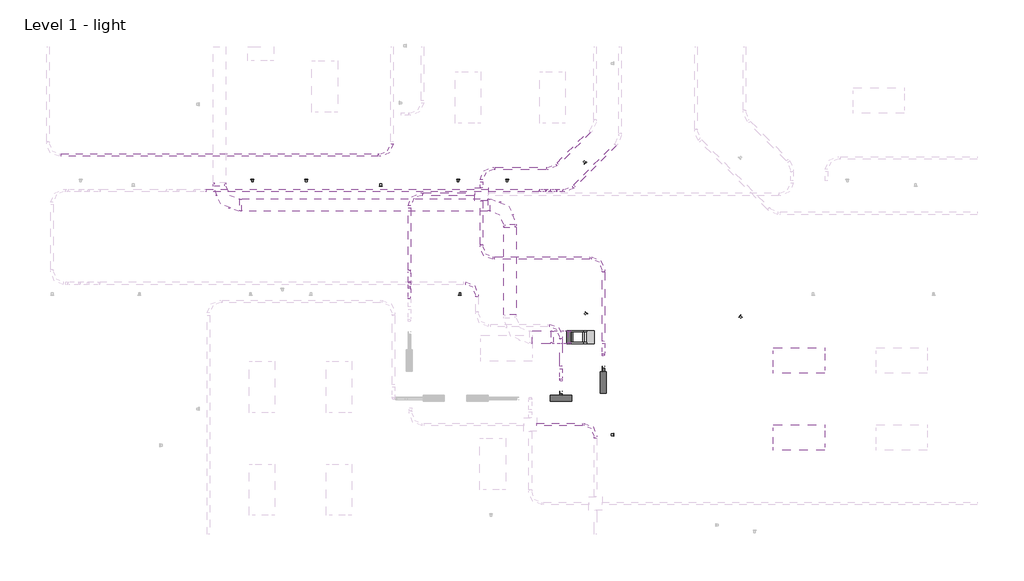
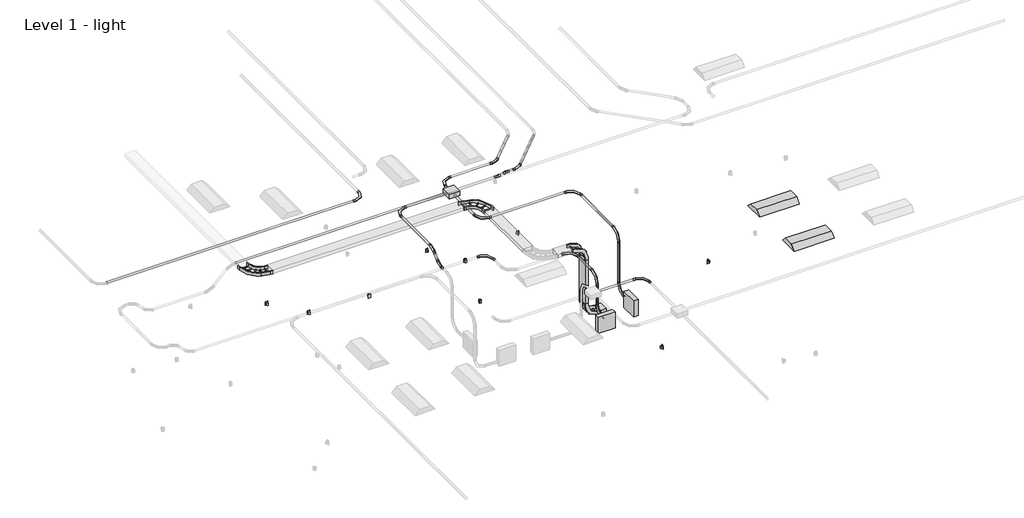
# One storey, part 3 of 5: 25 cable carrier segments, 23 cable carrier fittings, 9 proxies, 3 switching devices, 2 light fixtures.
"""IFC4 building model written with IfcOpenShell, lengths in millimetres."""

from ifc_helpers import new_model, si_unit, point, frame, frame_2d, origin, place, context, project, spatial, polyline, circle_curve, trimmed, segment, composite_curve, outline, extrude, transform, mapped, element, save
from components import m_duplex_receptacle_standard_10251bba, m_lighting_and_appliance_panelboard_208v_mlo_100_a_deb79597, m_conduit_elbow_without_fittings_rnc_standard_30e86c5b, m_conduit_elbow_without_fittings_rnc_standard_89ecd00f, m_conduit_elbow_without_fittings_rnc_standard_8ab30edc, m_conduit_junction_box_cross_pvc_standard_3c8550d1, m_ladder_horizontal_bend_standard_b7bc1a9d, m_ladder_vertical_inside_bend_standard_9c9c70af, m_ladder_vertical_outside_bend_standard_a116f5cc, m_plain_recessed_lighting_fixture_c7d3eefa

model = new_model("IFC4")

# Units and contexts
model_context = context("Model", 3, world=origin())
ifc_project = project(units=[si_unit("LENGTHUNIT", "METRE", prefix="MILLI")], contexts=[model_context])

# Site, building, storey
site = spatial("IfcSite", under=ifc_project)
building = spatial("IfcBuilding", under=site)
storey = spatial("IfcBuildingStorey", under=building, Name="Level 1 - light", Elevation=0.0)

# Proxies
placement = place(None, origin())
m_duplex_receptacle_standard_shape = m_duplex_receptacle_standard_10251bba(model_context)
element("IfcBuildingElementProxy", 1, Name="M_Duplex Receptacle : Standard", ObjectType="M_Duplex Receptacle : Standard", at=placement, inside=storey, context=model_context, shape_type="MappedRepresentation", body=[
    mapped(m_duplex_receptacle_standard_shape, transform((-13539.879286, 6803.8737109, 460.0), x_axis=(-1.0, 0.0, 0.0), y_axis=(0.0, 0.0, 1.0), z_axis=(0.0, 1.0, 0.0))),
])
element("IfcBuildingElementProxy", 2, Name="M_Duplex Receptacle : Standard", ObjectType="M_Duplex Receptacle : Standard", at=placement, inside=storey, context=model_context, shape_type="MappedRepresentation", body=[
    mapped(m_duplex_receptacle_standard_shape, transform((-8765.3956072, 6803.8737109, 460.0), x_axis=(-1.0, 0.0, 0.0), y_axis=(0.0, 0.0, 1.0), z_axis=(0.0, 1.0, 0.0))),
])
element("IfcBuildingElementProxy", 3, Name="M_Duplex Receptacle : Standard", ObjectType="M_Duplex Receptacle : Standard", at=placement, inside=storey, context=model_context, shape_type="MappedRepresentation", body=[
    mapped(m_duplex_receptacle_standard_shape, transform((-3232.9715079, 3556.064958, 460.0), x_axis=(-0.7071067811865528, -0.7071067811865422, 0.0), y_axis=(0.0, 0.0, 1.0), z_axis=(-0.7071067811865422, 0.7071067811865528, 0.0))),
])
element("IfcBuildingElementProxy", 4, Name="M_Duplex Receptacle : Standard", ObjectType="M_Duplex Receptacle : Standard", at=placement, inside=storey, context=model_context, shape_type="MappedRepresentation", body=[
    mapped(m_duplex_receptacle_standard_shape, transform((-6882.1900747, 3636.1510306, 460.0), x_axis=(-0.7071067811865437, 0.7071067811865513, 0.0), y_axis=(0.0, 0.0, 1.0), z_axis=(0.7071067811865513, 0.7071067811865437, 0.0))),
])
element("IfcBuildingElementProxy", 5, Name="M_Duplex Receptacle : Standard", ObjectType="M_Duplex Receptacle : Standard", at=placement, inside=storey, context=model_context, shape_type="MappedRepresentation", body=[
    mapped(m_duplex_receptacle_standard_shape, transform((-6906.3808842, 7197.8555817, 460.0), x_axis=(0.7071067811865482, 0.7071067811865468, 0.0), y_axis=(0.0, 0.0, 1.0), z_axis=(0.7071067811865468, -0.7071067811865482, 0.0))),
])
element("IfcBuildingElementProxy", 6, Name="M_Duplex Receptacle : Standard", ObjectType="M_Duplex Receptacle : Standard", at=placement, inside=storey, context=model_context, shape_type="MappedRepresentation", body=[
    mapped(m_duplex_receptacle_standard_shape, transform((-11769.180618, 6648.2987109, 460.0), x_axis=(1.0, 0.0, 0.0), y_axis=(0.0, 0.0, 1.0), z_axis=(0.0, -1.0, 0.0))),
])
element("IfcBuildingElementProxy", 7, Name="M_Duplex Receptacle : Standard", ObjectType="M_Duplex Receptacle : Standard", at=placement, inside=storey, context=model_context, shape_type="MappedRepresentation", body=[
    mapped(m_duplex_receptacle_standard_shape, transform((-6236.737755, 737.1869198, 460.0), x_axis=(0.0, 1.0, 0.0), y_axis=(0.0, 0.0, 1.0), z_axis=(1.0, 0.0, 0.0))),
])
m_lighting_and_appliance_panelboard_208v_mlo_100_a_shape = m_lighting_and_appliance_panelboard_208v_mlo_100_a_deb79597(model_context)
element("IfcBuildingElementProxy", 8, Name="M_Lighting and Appliance Panelboard - 208V MLO : 100 A", ObjectType="M_Lighting and Appliance Panelboard - 208V MLO : 100 A", at=placement, inside=storey, context=model_context, shape_type="MappedRepresentation", body=[
    mapped(m_lighting_and_appliance_panelboard_208v_mlo_100_a_shape, transform((-6406.1969837, 1981.2, 780.9), x_axis=(0.0, -1.0, 0.0), y_axis=(0.0, 0.0, -1.0), z_axis=(1.0, 0.0, 0.0))),
])
element("IfcBuildingElementProxy", 9, Name="M_Lighting and Appliance Panelboard - 208V MLO : 100 A", ObjectType="M_Lighting and Appliance Panelboard - 208V MLO : 100 A", at=placement, inside=storey, context=model_context, shape_type="MappedRepresentation", body=[
    mapped(m_lighting_and_appliance_panelboard_208v_mlo_100_a_shape, transform((-7481.7972895, 1530.1987109, 780.9), x_axis=(-1.0, 0.0, 0.0), y_axis=(0.0, 0.0, -1.0), z_axis=(0.0, -1.0, 0.0))),
])

# Cable carrier fittings
m_conduit_elbow_without_fittings_rnc_standard_shape = m_conduit_elbow_without_fittings_rnc_standard_30e86c5b(model_context)
element("IfcCableCarrierFitting", 10, ObjectType="M_Conduit Elbow - without Fittings - RNC : Standard", at=placement, inside=storey, context=model_context, shape_type="MappedRepresentation", body=[
    mapped(m_conduit_elbow_without_fittings_rnc_standard_shape, transform((-7672.3867332, 7067.753298, 3100.0), x_axis=(1.0, 0.0, 0.0), y_axis=(0.0, 1.0, 0.0), z_axis=(0.0, 0.0, 1.0))),
])
element("IfcCableCarrierFitting", 11, ObjectType="M_Conduit Elbow - without Fittings - RNC : Standard", at=placement, inside=storey, context=model_context, shape_type="MappedRepresentation", body=[
    mapped(m_conduit_elbow_without_fittings_rnc_standard_shape, transform((-11091.3, 4128.4116522, 2750.0), x_axis=(0.0, 1.0, 0.0), y_axis=(0.0, 0.0, 1.0), z_axis=(1.0, 0.0, 0.0))),
])
element("IfcCableCarrierFitting", 12, ObjectType="M_Conduit Elbow - without Fittings - RNC : Standard", at=placement, inside=storey, context=model_context, shape_type="MappedRepresentation", body=[
    mapped(m_conduit_elbow_without_fittings_rnc_standard_shape, transform((-11091.3, 4478.4116522, 3100.0), x_axis=(0.0, 0.7071067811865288, 0.7071067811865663), y_axis=(0.0, 0.7071067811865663, -0.7071067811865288), z_axis=(-1.0, 0.0, 0.0))),
])
element("IfcCableCarrierFitting", 13, ObjectType="M_Conduit Elbow - without Fittings - RNC : Standard", at=placement, inside=storey, context=model_context, shape_type="MappedRepresentation", body=[
    mapped(m_conduit_elbow_without_fittings_rnc_standard_shape, transform((-7281.8, 6538.0528944, 3100.0), x_axis=(1.0, 0.0, 0.0), y_axis=(0.0, 1.0, 0.0), z_axis=(0.0, 0.0, 1.0))),
])
m_conduit_elbow_without_fittings_rnc_standard_2_shape = m_conduit_elbow_without_fittings_rnc_standard_89ecd00f(model_context)
element("IfcCableCarrierFitting", 14, ObjectType="M_Conduit Elbow - without Fittings - RNC : Standard", at=placement, inside=storey, context=model_context, shape_type="MappedRepresentation", body=[
    mapped(m_conduit_elbow_without_fittings_rnc_standard_2_shape, transform((-6479.2, 2635.2, 1200.0), x_axis=(0.0, 1.0, 0.0), y_axis=(0.0, 0.0, 1.0), z_axis=(1.0, 0.0, 0.0))),
])
element("IfcCableCarrierFitting", 15, ObjectType="M_Conduit Elbow - without Fittings - RNC : Standard", at=placement, inside=storey, context=model_context, shape_type="MappedRepresentation", body=[
    mapped(m_conduit_elbow_without_fittings_rnc_standard_2_shape, transform((-6479.2, 2635.2, 3100.0), x_axis=(0.0, 0.0, 1.0), y_axis=(0.0, 1.0, 0.0), z_axis=(-1.0, 0.0, 0.0))),
])
element("IfcCableCarrierFitting", 16, ObjectType="M_Conduit Elbow - without Fittings - RNC : Standard", at=placement, inside=storey, context=model_context, shape_type="MappedRepresentation", body=[
    mapped(m_conduit_elbow_without_fittings_rnc_standard_2_shape, transform((-6479.2, 4935.2, 3100.0), x_axis=(0.0, 1.0, 0.0), y_axis=(-1.0, 0.0, 0.0), z_axis=(0.0, 0.0, 1.0))),
])
element("IfcCableCarrierFitting", 17, ObjectType="M_Conduit Elbow - without Fittings - RNC : Standard", at=placement, inside=storey, context=model_context, shape_type="MappedRepresentation", body=[
    mapped(m_conduit_elbow_without_fittings_rnc_standard_2_shape, transform((-9379.2, 7067.753298, 3100.0), x_axis=(-1.0, 0.0, 0.0), y_axis=(0.0, -1.0, 0.0), z_axis=(0.0, 0.0, 1.0))),
])
element("IfcCableCarrierFitting", 18, ObjectType="M_Conduit Elbow - without Fittings - RNC : Standard", at=placement, inside=storey, context=model_context, shape_type="MappedRepresentation", body=[
    mapped(m_conduit_elbow_without_fittings_rnc_standard_2_shape, transform((-9379.2, 4935.2, 3100.0), x_axis=(0.0, -1.0, 0.0), y_axis=(1.0, 0.0, 0.0), z_axis=(0.0, 0.0, 1.0))),
])
element("IfcCableCarrierFitting", 19, ObjectType="M_Conduit Elbow - without Fittings - RNC : Standard", at=placement, inside=storey, context=model_context, shape_type="MappedRepresentation", body=[
    mapped(m_conduit_elbow_without_fittings_rnc_standard_2_shape, transform((-11091.3, 6453.4116522, 3100.0), x_axis=(-1.0, 0.0, 0.0), y_axis=(0.0, -1.0, 0.0), z_axis=(0.0, 0.0, 1.0))),
])
element("IfcCableCarrierFitting", 20, ObjectType="M_Conduit Elbow - without Fittings - RNC : Standard", at=placement, inside=storey, context=model_context, shape_type="MappedRepresentation", body=[
    mapped(m_conduit_elbow_without_fittings_rnc_standard_2_shape, transform((-6663.4807444, 980.94, 2750.0), x_axis=(0.0, 1.0, 0.0), y_axis=(-1.0, 0.0, 0.0), z_axis=(0.0, 0.0, 1.0))),
])
element("IfcCableCarrierFitting", 21, ObjectType="M_Conduit Elbow - without Fittings - RNC : Standard", at=placement, inside=storey, context=model_context, shape_type="MappedRepresentation", body=[
    mapped(m_conduit_elbow_without_fittings_rnc_standard_2_shape, transform((-11502.4372396, 7383.2800092, 3100.0), x_axis=(1.0, 0.0, 0.0), y_axis=(0.0, 1.0, 0.0), z_axis=(0.0, 0.0, 1.0))),
])
element("IfcCableCarrierFitting", 22, ObjectType="M_Conduit Elbow - without Fittings - RNC : Standard", at=placement, inside=storey, context=model_context, shape_type="MappedRepresentation", body=[
    mapped(m_conduit_elbow_without_fittings_rnc_standard_2_shape, transform((-7481.8, 2038.0528944, 1200.0), x_axis=(0.0, 1.0, 0.0), y_axis=(0.0, 0.0, 1.0), z_axis=(1.0, 0.0, 0.0))),
])
element("IfcCableCarrierFitting", 23, ObjectType="M_Conduit Elbow - without Fittings - RNC : Standard", at=placement, inside=storey, context=model_context, shape_type="MappedRepresentation", body=[
    mapped(m_conduit_elbow_without_fittings_rnc_standard_2_shape, transform((-7481.8, 2038.0528944, 2427.7), x_axis=(0.0, 0.0, 1.0), y_axis=(0.0, 1.0, 0.0), z_axis=(-1.0, 0.0, 0.0))),
])
element("IfcCableCarrierFitting", 24, ObjectType="M_Conduit Elbow - without Fittings - RNC : Standard", at=placement, inside=storey, context=model_context, shape_type="MappedRepresentation", body=[
    mapped(m_conduit_elbow_without_fittings_rnc_standard_2_shape, transform((-7481.8, 3338.0528944, 2427.7), x_axis=(0.0, 1.0, 0.0), y_axis=(-1.0, 0.0, 0.0), z_axis=(0.0, 0.0, 1.0))),
])
element("IfcCableCarrierFitting", 25, ObjectType="M_Conduit Elbow - without Fittings - RNC : Standard", at=placement, inside=storey, context=model_context, shape_type="MappedRepresentation", body=[
    mapped(m_conduit_elbow_without_fittings_rnc_standard_2_shape, transform((-9481.8, 4338.0528944, 2427.7), x_axis=(0.0, 1.0, 0.0), y_axis=(-1.0, 0.0, 0.0), z_axis=(0.0, 0.0, 1.0))),
])
m_conduit_elbow_without_fittings_rnc_standard_3_shape = m_conduit_elbow_without_fittings_rnc_standard_8ab30edc(model_context)
element("IfcCableCarrierFitting", 26, ObjectType="M_Conduit Elbow - without Fittings - RNC : Standard", at=placement, inside=storey, context=model_context, shape_type="MappedRepresentation", body=[
    mapped(m_conduit_elbow_without_fittings_rnc_standard_3_shape, transform((-7661.2098584, 6538.0528944, 3100.0), x_axis=(-1.0, 0.0, 0.0), y_axis=(0.0, 0.0, -1.0), z_axis=(0.0, -1.0, 0.0))),
])
element("IfcCableCarrierFitting", 27, ObjectType="M_Conduit Elbow - without Fittings - RNC : Standard", at=placement, inside=storey, context=model_context, shape_type="MappedRepresentation", body=[
    mapped(m_conduit_elbow_without_fittings_rnc_standard_3_shape, transform((-7922.6304784, 6538.0528944, 3048.0), x_axis=(-0.9807851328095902, 0.0, -0.19509106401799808), y_axis=(-0.19509106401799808, 0.0, 0.9807851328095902), z_axis=(0.0, 1.0, 0.0))),
])
m_conduit_junction_box_cross_pvc_standard_shape = m_conduit_junction_box_cross_pvc_standard_3c8550d1(model_context)
element("IfcCableCarrierFitting", 28, ObjectType="M_Conduit Junction Box - Cross - PVC : Standard", at=placement, inside=storey, context=model_context, shape_type="MappedRepresentation", body=[
    mapped(m_conduit_junction_box_cross_pvc_standard_shape, transform((-9379.2, 6453.4116522, 3100.0), x_axis=(1.0, 0.0, 0.0), y_axis=(0.0, 1.0, 0.0), z_axis=(0.0, 0.0, 1.0))),
])
m_ladder_horizontal_bend_standard_shape = m_ladder_horizontal_bend_standard_b7bc1a9d(model_context)
element("IfcCableCarrierFitting", 29, ObjectType="M_Ladder Horizontal Bend : Standard", at=placement, inside=storey, context=model_context, shape_type="MappedRepresentation", body=[
    mapped(m_ladder_horizontal_bend_standard_shape, transform((-8700.0321645, 6195.778284, 2750.0), x_axis=(0.0, 1.0, 0.0), y_axis=(-1.0, 0.0, 0.0), z_axis=(0.0, 0.0, 1.0))),
])
element("IfcCableCarrierFitting", 30, ObjectType="M_Ladder Horizontal Bend : Standard", at=placement, inside=storey, context=model_context, shape_type="MappedRepresentation", body=[
    mapped(m_ladder_horizontal_bend_standard_shape, transform((-15600.0321645, 6195.778284, 2750.0), x_axis=(0.0, -1.0, 0.0), y_axis=(1.0, 0.0, 0.0), z_axis=(0.0, 0.0, 1.0))),
])
m_ladder_vertical_inside_bend_standard_shape = m_ladder_vertical_inside_bend_standard_9c9c70af(model_context)
element("IfcCableCarrierFitting", 31, ObjectType="M_Ladder Vertical Inside Bend : Standard", at=placement, inside=storey, context=model_context, shape_type="MappedRepresentation", body=[
    mapped(m_ladder_vertical_inside_bend_standard_shape, transform((-7300.0321645, 3055.778284, 500.0), x_axis=(-1.0, 0.0, 0.0), y_axis=(0.0, 0.0, 1.0), z_axis=(0.0, 1.0, 0.0))),
])
m_ladder_vertical_outside_bend_standard_shape = m_ladder_vertical_outside_bend_standard_a116f5cc(model_context)
element("IfcCableCarrierFitting", 32, ObjectType="M_Ladder Vertical Outside Bend : Standard", at=placement, inside=storey, context=model_context, shape_type="MappedRepresentation", body=[
    mapped(m_ladder_vertical_outside_bend_standard_shape, transform((-7300.0321645, 3055.778284, 2750.0), x_axis=(0.0, 0.0, 1.0), y_axis=(-1.0, 0.0, 0.0), z_axis=(0.0, -1.0, 0.0))),
])

# Cable carrier segments
element("IfcCableCarrierSegment", 33, ObjectType="Rigid Nonmetallic Conduit (RNC Sch 40)", at=placement, inside=storey, context=model_context, shape_type="SweptSolid", body=[
    extrude(outline(composite_curve([segment(trimmed(circle_curve(frame_2d((7067.753298, 3100.0)), 30.165), [point((7037.588298, 3100.0))], [point((7067.753298, 3130.165))], False, "CARTESIAN"), True, "CONTINUOUS"), segment(trimmed(circle_curve(frame_2d((7067.753298, 3100.0)), 30.165), [point((7067.753298, 3130.165))], [point((7097.918298, 3100.0))], False, "CARTESIAN"), True, "CONTINUOUS"), segment(trimmed(circle_curve(frame_2d((7067.753298, 3100.0)), 30.165), [point((7097.918298, 3100.0))], [point((7067.753298, 3069.835))], False, "CARTESIAN"), True, "CONTINUOUS"), segment(trimmed(circle_curve(frame_2d((7067.753298, 3100.0)), 30.165), [point((7067.753298, 3069.835))], [point((7037.588298, 3100.0))], False, "CARTESIAN"), True, "CONTINUOUS")], self_intersect=False)), frame((-9056.94, 0.0, 0.0), z_axis=(1.0, 0.0, 0.0), x_axis=(0.0, 1.0, 0.0)), (0.0, 0.0, 1.0), 1221.3108531),
])
element("IfcCableCarrierSegment", 34, ObjectType="Rigid Nonmetallic Conduit (RNC Sch 40)", at=placement, inside=storey, context=model_context, shape_type="SweptSolid", body=[
    extrude(outline(composite_curve([segment(trimmed(circle_curve(frame_2d((0.0, 30.165)), 30.165), [point((30.1650001, 30.165))], [point((0.0, 0.0))], False, "CARTESIAN"), True, "CONTINUOUS"), segment(trimmed(circle_curve(frame_2d((0.0, 30.165)), 30.165), [point((0.0, 0.0))], [point((-30.1649999, 30.165))], False, "CARTESIAN"), True, "CONTINUOUS"), segment(trimmed(circle_curve(frame_2d((0.0, 30.165)), 30.165), [point((-30.1649999, 30.165))], [point((0.0, 60.33))], False, "CARTESIAN"), True, "CONTINUOUS"), segment(trimmed(circle_curve(frame_2d((0.0, 30.165)), 30.165), [point((0.0, 60.33))], [point((30.1650001, 30.165))], False, "CARTESIAN"), True, "CONTINUOUS")], self_intersect=False)), frame((-7556.9569156, 7183.1831157, 3130.165), z_axis=(0.7071067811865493, 0.7071067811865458, 0.0), x_axis=(0.7071067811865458, -0.7071067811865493, 0.0)), (0.0, 0.0, 1.0), 1073.5151727),
])
element("IfcCableCarrierSegment", 35, ObjectType="Rigid Nonmetallic Conduit (RNC Sch 40)", at=placement, inside=storey, context=model_context, shape_type="SweptSolid", body=[
    extrude(outline(composite_curve([segment(trimmed(circle_curve(frame_2d((1200.0, -6479.2)), 30.165), [point((1200.0, -6449.035))], [point((1230.165, -6479.2))], False, "CARTESIAN"), True, "CONTINUOUS"), segment(trimmed(circle_curve(frame_2d((1200.0, -6479.2)), 30.165), [point((1230.165, -6479.2))], [point((1200.0, -6509.365))], False, "CARTESIAN"), True, "CONTINUOUS"), segment(trimmed(circle_curve(frame_2d((1200.0, -6479.2)), 30.165), [point((1200.0, -6509.365))], [point((1169.835, -6479.2))], False, "CARTESIAN"), True, "CONTINUOUS"), segment(trimmed(circle_curve(frame_2d((1200.0, -6479.2)), 30.165), [point((1169.835, -6479.2))], [point((1200.0, -6449.035))], False, "CARTESIAN"), True, "CONTINUOUS")], self_intersect=False)), frame((0.0, 2235.2, 0.0), z_axis=(0.0, 1.0, 0.0), x_axis=(0.0, 0.0, 1.0)), (0.0, 0.0, 1.0), 77.74),
])
element("IfcCableCarrierSegment", 36, ObjectType="Rigid Nonmetallic Conduit (RNC Sch 40)", at=placement, inside=storey, context=model_context, shape_type="SweptSolid", body=[
    extrude(outline(composite_curve([segment(trimmed(circle_curve(frame_2d((-6479.2, 2635.2)), 30.165), [point((-6509.365, 2635.2))], [point((-6479.2, 2665.365))], False, "CARTESIAN"), True, "CONTINUOUS"), segment(trimmed(circle_curve(frame_2d((-6479.2, 2635.2)), 30.165), [point((-6479.2, 2665.365))], [point((-6449.035, 2635.2))], False, "CARTESIAN"), True, "CONTINUOUS"), segment(trimmed(circle_curve(frame_2d((-6479.2, 2635.2)), 30.165), [point((-6449.035, 2635.2))], [point((-6479.2, 2605.035))], False, "CARTESIAN"), True, "CONTINUOUS"), segment(trimmed(circle_curve(frame_2d((-6479.2, 2635.2)), 30.165), [point((-6479.2, 2605.035))], [point((-6509.365, 2635.2))], False, "CARTESIAN"), True, "CONTINUOUS")], self_intersect=False)), frame((0.0, 0.0, 1522.26), z_axis=(0.0, 0.0, 1.0), x_axis=(1.0, 0.0, 0.0)), (0.0, 0.0, 1.0), 1255.48),
])
element("IfcCableCarrierSegment", 37, ObjectType="Rigid Nonmetallic Conduit (RNC Sch 40)", at=placement, inside=storey, context=model_context, shape_type="SweptSolid", body=[
    extrude(outline(composite_curve([segment(trimmed(circle_curve(frame_2d((3100.0, -6479.2)), 30.165), [point((3100.0, -6449.035))], [point((3130.165, -6479.2))], False, "CARTESIAN"), True, "CONTINUOUS"), segment(trimmed(circle_curve(frame_2d((3100.0, -6479.2)), 30.165), [point((3130.165, -6479.2))], [point((3100.0, -6509.365))], False, "CARTESIAN"), True, "CONTINUOUS"), segment(trimmed(circle_curve(frame_2d((3100.0, -6479.2)), 30.165), [point((3100.0, -6509.365))], [point((3069.835, -6479.2))], False, "CARTESIAN"), True, "CONTINUOUS"), segment(trimmed(circle_curve(frame_2d((3100.0, -6479.2)), 30.165), [point((3069.835, -6479.2))], [point((3100.0, -6449.035))], False, "CARTESIAN"), True, "CONTINUOUS")], self_intersect=False)), frame((0.0, 2957.46, 0.0), z_axis=(0.0, 1.0, 0.0), x_axis=(0.0, 0.0, 1.0)), (0.0, 0.0, 1.0), 1655.48),
])
element("IfcCableCarrierSegment", 38, ObjectType="Rigid Nonmetallic Conduit (RNC Sch 40)", at=placement, inside=storey, context=model_context, shape_type="SweptSolid", body=[
    extrude(outline(composite_curve([segment(trimmed(circle_curve(frame_2d((4935.2, 3100.0)), 30.165), [point((4965.365, 3100.0))], [point((4935.2, 3069.835))], False, "CARTESIAN"), True, "CONTINUOUS"), segment(trimmed(circle_curve(frame_2d((4935.2, 3100.0)), 30.165), [point((4935.2, 3069.835))], [point((4905.035, 3100.0))], False, "CARTESIAN"), True, "CONTINUOUS"), segment(trimmed(circle_curve(frame_2d((4935.2, 3100.0)), 30.165), [point((4905.035, 3100.0))], [point((4935.2, 3130.165))], False, "CARTESIAN"), True, "CONTINUOUS"), segment(trimmed(circle_curve(frame_2d((4935.2, 3100.0)), 30.165), [point((4935.2, 3130.165))], [point((4965.365, 3100.0))], False, "CARTESIAN"), True, "CONTINUOUS")], self_intersect=False)), frame((-9056.94, 0.0, 0.0), z_axis=(1.0, 0.0, 0.0), x_axis=(0.0, 1.0, 0.0)), (0.0, 0.0, 1.0), 2255.48),
])
element("IfcCableCarrierSegment", 39, ObjectType="Rigid Nonmetallic Conduit (RNC Sch 40)", at=placement, inside=storey, context=model_context, shape_type="SweptSolid", body=[
    extrude(outline(composite_curve([segment(trimmed(circle_curve(frame_2d((3100.0, -9379.2)), 30.165), [point((3100.0, -9409.365))], [point((3069.835, -9379.2))], False, "CARTESIAN"), True, "CONTINUOUS"), segment(trimmed(circle_curve(frame_2d((3100.0, -9379.2)), 30.165), [point((3069.835, -9379.2))], [point((3100.0, -9349.035))], False, "CARTESIAN"), True, "CONTINUOUS"), segment(trimmed(circle_curve(frame_2d((3100.0, -9379.2)), 30.165), [point((3100.0, -9349.035))], [point((3130.165, -9379.2))], False, "CARTESIAN"), True, "CONTINUOUS"), segment(trimmed(circle_curve(frame_2d((3100.0, -9379.2)), 30.165), [point((3130.165, -9379.2))], [point((3100.0, -9409.365))], False, "CARTESIAN"), True, "CONTINUOUS")], self_intersect=False)), frame((0.0, 5257.46, 0.0), z_axis=(0.0, 1.0, 0.0), x_axis=(0.0, 0.0, 1.0)), (0.0, 0.0, 1.0), 1036.9516522),
])
element("IfcCableCarrierSegment", 40, ObjectType="Rigid Nonmetallic Conduit (RNC Sch 40)", at=placement, inside=storey, context=model_context, shape_type="SweptSolid", body=[
    extrude(outline(composite_curve([segment(trimmed(circle_curve(frame_2d((3100.0, -11091.3)), 30.165), [point((3100.0, -11061.135))], [point((3130.165, -11091.3))], False, "CARTESIAN"), True, "CONTINUOUS"), segment(trimmed(circle_curve(frame_2d((3100.0, -11091.3)), 30.165), [point((3130.165, -11091.3))], [point((3100.0, -11121.465))], False, "CARTESIAN"), True, "CONTINUOUS"), segment(trimmed(circle_curve(frame_2d((3100.0, -11091.3)), 30.165), [point((3100.0, -11121.465))], [point((3069.835, -11091.3))], False, "CARTESIAN"), True, "CONTINUOUS"), segment(trimmed(circle_curve(frame_2d((3100.0, -11091.3)), 30.165), [point((3069.835, -11091.3))], [point((3100.0, -11061.135))], False, "CARTESIAN"), True, "CONTINUOUS")], self_intersect=False)), frame((0.0, 4641.6540658, 0.0), z_axis=(0.0, 1.0, 0.0), x_axis=(0.0, 0.0, 1.0)), (0.0, 0.0, 1.0), 1489.4975864),
])
element("IfcCableCarrierSegment", 41, ObjectType="Rigid Nonmetallic Conduit (RNC Sch 40)", at=placement, inside=storey, context=model_context, shape_type="SweptSolid", body=[
    extrude(outline(composite_curve([segment(trimmed(circle_curve(frame_2d((0.0, 30.1649999)), 30.165), [point((30.165, 30.1649999))], [point((0.0, 0.0))], False, "CARTESIAN"), True, "CONTINUOUS"), segment(trimmed(circle_curve(frame_2d((0.0, 30.1649999)), 30.165), [point((0.0, 0.0))], [point((-30.165, 30.1649999))], False, "CARTESIAN"), True, "CONTINUOUS"), segment(trimmed(circle_curve(frame_2d((0.0, 30.1649999)), 30.165), [point((-30.165, 30.1649999))], [point((0.0, 60.33))], False, "CARTESIAN"), True, "CONTINUOUS"), segment(trimmed(circle_curve(frame_2d((0.0, 30.1649999)), 30.165), [point((0.0, 60.33))], [point((30.165, 30.1649999))], False, "CARTESIAN"), True, "CONTINUOUS")], self_intersect=False)), frame((-11091.3, 4222.5115938, 2886.7596937), z_axis=(0.0, 0.7071067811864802, 0.7071067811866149), x_axis=(1.0, 0.0, 0.0)), (0.0, 0.0, 1.0), 168.4899195),
])
element("IfcCableCarrierSegment", 42, ObjectType="Rigid Nonmetallic Conduit (RNC Sch 40)", at=placement, inside=storey, context=model_context, shape_type="SweptSolid", body=[
    extrude(outline(composite_curve([segment(trimmed(circle_curve(frame_2d((6453.4116522, 3100.0)), 30.165), [point((6423.2466522, 3100.0))], [point((6453.4116522, 3130.165))], False, "CARTESIAN"), True, "CONTINUOUS"), segment(trimmed(circle_curve(frame_2d((6453.4116522, 3100.0)), 30.165), [point((6453.4116522, 3130.165))], [point((6483.5766522, 3100.0))], False, "CARTESIAN"), True, "CONTINUOUS"), segment(trimmed(circle_curve(frame_2d((6453.4116522, 3100.0)), 30.165), [point((6483.5766522, 3100.0))], [point((6453.4116522, 3069.835))], False, "CARTESIAN"), True, "CONTINUOUS"), segment(trimmed(circle_curve(frame_2d((6453.4116522, 3100.0)), 30.165), [point((6453.4116522, 3069.835))], [point((6423.2466522, 3100.0))], False, "CARTESIAN"), True, "CONTINUOUS")], self_intersect=False)), frame((-10769.04, 0.0, 0.0), z_axis=(1.0, 0.0, 0.0), x_axis=(0.0, 1.0, 0.0)), (0.0, 0.0, 1.0), 1230.84),
])
element("IfcCableCarrierSegment", 43, ObjectType="Rigid Nonmetallic Conduit (RNC Sch 40)", at=placement, inside=storey, context=model_context, shape_type="SweptSolid", body=[
    extrude(outline(composite_curve([segment(trimmed(circle_curve(frame_2d((3100.0, -9379.2)), 30.165), [point((3100.0, -9409.365))], [point((3069.835, -9379.2))], False, "CARTESIAN"), True, "CONTINUOUS"), segment(trimmed(circle_curve(frame_2d((3100.0, -9379.2)), 30.165), [point((3069.835, -9379.2))], [point((3100.0, -9349.035))], False, "CARTESIAN"), True, "CONTINUOUS"), segment(trimmed(circle_curve(frame_2d((3100.0, -9379.2)), 30.165), [point((3100.0, -9349.035))], [point((3130.165, -9379.2))], False, "CARTESIAN"), True, "CONTINUOUS"), segment(trimmed(circle_curve(frame_2d((3100.0, -9379.2)), 30.165), [point((3130.165, -9379.2))], [point((3100.0, -9409.365))], False, "CARTESIAN"), True, "CONTINUOUS")], self_intersect=False)), frame((0.0, 6612.4116522, 0.0), z_axis=(0.0, 1.0, 0.0), x_axis=(0.0, 0.0, 1.0)), (0.0, 0.0, 1.0), 133.0816458),
])
element("IfcCableCarrierSegment", 44, ObjectType="Rigid Nonmetallic Conduit (RNC Sch 40)", at=placement, inside=storey, context=model_context, shape_type="SweptSolid", body=[
    extrude(outline(composite_curve([segment(trimmed(circle_curve(frame_2d((7383.2800092, 3100.0)), 30.165), [point((7413.4450092, 3100.0))], [point((7383.2800092, 3069.835))], False, "CARTESIAN"), True, "CONTINUOUS"), segment(trimmed(circle_curve(frame_2d((7383.2800092, 3100.0)), 30.165), [point((7383.2800092, 3069.835))], [point((7353.1150092, 3100.0))], False, "CARTESIAN"), True, "CONTINUOUS"), segment(trimmed(circle_curve(frame_2d((7383.2800092, 3100.0)), 30.165), [point((7353.1150092, 3100.0))], [point((7383.2800092, 3130.165))], False, "CARTESIAN"), True, "CONTINUOUS"), segment(trimmed(circle_curve(frame_2d((7383.2800092, 3100.0)), 30.165), [point((7383.2800092, 3130.165))], [point((7413.4450092, 3100.0))], False, "CARTESIAN"), True, "CONTINUOUS")], self_intersect=False)), frame((-19360.1772396, 0.0, 0.0), z_axis=(1.0, 0.0, 0.0), x_axis=(0.0, 1.0, 0.0)), (0.0, 0.0, 1.0), 7535.48),
])
element("IfcCableCarrierSegment", 45, ObjectType="Rigid Nonmetallic Conduit (RNC Sch 40)", at=placement, inside=storey, context=model_context, shape_type="SweptSolid", body=[
    extrude(outline(composite_curve([segment(trimmed(circle_curve(frame_2d((980.94, 2750.0)), 30.165), [point((1011.105, 2750.0))], [point((980.94, 2719.835))], False, "CARTESIAN"), True, "CONTINUOUS"), segment(trimmed(circle_curve(frame_2d((980.94, 2750.0)), 30.165), [point((980.94, 2719.835))], [point((950.775, 2750.0))], False, "CARTESIAN"), True, "CONTINUOUS"), segment(trimmed(circle_curve(frame_2d((980.94, 2750.0)), 30.165), [point((950.775, 2750.0))], [point((980.94, 2780.165))], False, "CARTESIAN"), True, "CONTINUOUS"), segment(trimmed(circle_curve(frame_2d((980.94, 2750.0)), 30.165), [point((980.94, 2780.165))], [point((1011.105, 2750.0))], False, "CARTESIAN"), True, "CONTINUOUS")], self_intersect=False)), frame((-8057.4, 0.0, 0.0), z_axis=(1.0, 0.0, 0.0), x_axis=(0.0, 1.0, 0.0)), (0.0, 0.0, 1.0), 1071.6592556),
])
element("IfcCableCarrierSegment", 46, ObjectType="Rigid Nonmetallic Conduit (RNC Sch 40)", at=placement, inside=storey, context=model_context, shape_type="SweptSolid", body=[
    extrude(outline(composite_curve([segment(trimmed(circle_curve(frame_2d((1200.0, -7481.8)), 30.165), [point((1200.0, -7451.635))], [point((1230.165, -7481.8))], False, "CARTESIAN"), True, "CONTINUOUS"), segment(trimmed(circle_curve(frame_2d((1200.0, -7481.8)), 30.165), [point((1230.165, -7481.8))], [point((1200.0, -7511.965))], False, "CARTESIAN"), True, "CONTINUOUS"), segment(trimmed(circle_curve(frame_2d((1200.0, -7481.8)), 30.165), [point((1200.0, -7511.965))], [point((1169.835, -7481.8))], False, "CARTESIAN"), True, "CONTINUOUS"), segment(trimmed(circle_curve(frame_2d((1200.0, -7481.8)), 30.165), [point((1169.835, -7481.8))], [point((1200.0, -7451.635))], False, "CARTESIAN"), True, "CONTINUOUS")], self_intersect=False)), frame((0.0, 1676.2987109, 0.0), z_axis=(0.0, 1.0, 0.0), x_axis=(0.0, 0.0, 1.0)), (0.0, 0.0, 1.0), 39.4941835),
])
element("IfcCableCarrierSegment", 47, ObjectType="Rigid Nonmetallic Conduit (RNC Sch 40)", at=placement, inside=storey, context=model_context, shape_type="SweptSolid", body=[
    extrude(outline(composite_curve([segment(trimmed(circle_curve(frame_2d((-7481.8, 2038.0528944)), 30.165), [point((-7511.965, 2038.0528944))], [point((-7481.8, 2068.2178944))], False, "CARTESIAN"), True, "CONTINUOUS"), segment(trimmed(circle_curve(frame_2d((-7481.8, 2038.0528944)), 30.165), [point((-7481.8, 2068.2178944))], [point((-7451.635, 2038.0528944))], False, "CARTESIAN"), True, "CONTINUOUS"), segment(trimmed(circle_curve(frame_2d((-7481.8, 2038.0528944)), 30.165), [point((-7451.635, 2038.0528944))], [point((-7481.8, 2007.8878944))], False, "CARTESIAN"), True, "CONTINUOUS"), segment(trimmed(circle_curve(frame_2d((-7481.8, 2038.0528944)), 30.165), [point((-7481.8, 2007.8878944))], [point((-7511.965, 2038.0528944))], False, "CARTESIAN"), True, "CONTINUOUS")], self_intersect=False)), frame((0.0, 0.0, 1522.26), z_axis=(0.0, 0.0, 1.0), x_axis=(1.0, 0.0, 0.0)), (0.0, 0.0, 1.0), 583.18),
])
element("IfcCableCarrierSegment", 48, ObjectType="Rigid Nonmetallic Conduit (RNC Sch 40)", at=placement, inside=storey, context=model_context, shape_type="SweptSolid", body=[
    extrude(outline(composite_curve([segment(trimmed(circle_curve(frame_2d((0.0, 30.165)), 30.165), [point((30.1649999, 30.165))], [point((0.0, 0.0))], False, "CARTESIAN"), True, "CONTINUOUS"), segment(trimmed(circle_curve(frame_2d((0.0, 30.165)), 30.165), [point((0.0, 0.0))], [point((-30.1650001, 30.165))], False, "CARTESIAN"), True, "CONTINUOUS"), segment(trimmed(circle_curve(frame_2d((0.0, 30.165)), 30.165), [point((-30.1650001, 30.165))], [point((0.0, 60.33))], False, "CARTESIAN"), True, "CONTINUOUS"), segment(trimmed(circle_curve(frame_2d((0.0, 30.165)), 30.165), [point((0.0, 60.33))], [point((30.1649999, 30.165))], False, "CARTESIAN"), True, "CONTINUOUS")], self_intersect=False)), frame((-7166.3701823, 6653.482712, 3130.165), z_axis=(0.7071067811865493, 0.7071067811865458, 0.0), x_axis=(0.7071067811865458, -0.7071067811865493, 0.0)), (0.0, 0.0, 1.0), 1373.5151727),
])
element("IfcCableCarrierSegment", 49, ObjectType="Rigid Nonmetallic Conduit (RNC Sch 40)", at=placement, inside=storey, context=model_context, shape_type="SweptSolid", body=[
    extrude(outline(composite_curve([segment(trimmed(circle_curve(frame_2d((2427.7, -7481.8)), 30.165), [point((2427.7, -7451.635))], [point((2457.865, -7481.8))], False, "CARTESIAN"), True, "CONTINUOUS"), segment(trimmed(circle_curve(frame_2d((2427.7, -7481.8)), 30.165), [point((2457.865, -7481.8))], [point((2427.7, -7511.965))], False, "CARTESIAN"), True, "CONTINUOUS"), segment(trimmed(circle_curve(frame_2d((2427.7, -7481.8)), 30.165), [point((2427.7, -7511.965))], [point((2397.535, -7481.8))], False, "CARTESIAN"), True, "CONTINUOUS"), segment(trimmed(circle_curve(frame_2d((2427.7, -7481.8)), 30.165), [point((2397.535, -7481.8))], [point((2427.7, -7451.635))], False, "CARTESIAN"), True, "CONTINUOUS")], self_intersect=False)), frame((0.0, 2360.3128944, 0.0), z_axis=(0.0, 1.0, 0.0), x_axis=(0.0, 0.0, 1.0)), (0.0, 0.0, 1.0), 655.48),
])
element("IfcCableCarrierSegment", 50, ObjectType="Rigid Nonmetallic Conduit (RNC Sch 40)", at=placement, inside=storey, context=model_context, shape_type="SweptSolid", body=[
    extrude(outline(composite_curve([segment(trimmed(circle_curve(frame_2d((6538.0528944, 3048.0)), 30.165), [point((6568.2178944, 3048.0))], [point((6538.0528944, 3017.835))], False, "CARTESIAN"), True, "CONTINUOUS"), segment(trimmed(circle_curve(frame_2d((6538.0528944, 3048.0)), 30.165), [point((6538.0528944, 3017.835))], [point((6507.8878944, 3048.0))], False, "CARTESIAN"), True, "CONTINUOUS"), segment(trimmed(circle_curve(frame_2d((6538.0528944, 3048.0)), 30.165), [point((6507.8878944, 3048.0))], [point((6538.0528944, 3078.165))], False, "CARTESIAN"), True, "CONTINUOUS"), segment(trimmed(circle_curve(frame_2d((6538.0528944, 3048.0)), 30.165), [point((6538.0528944, 3078.165))], [point((6568.2178944, 3048.0))], False, "CARTESIAN"), True, "CONTINUOUS")], self_intersect=False)), frame((-15917.9906417, 0.0, 0.0), z_axis=(1.0, 0.0, 0.0), x_axis=(0.0, 1.0, 0.0)), (0.0, 0.0, 1.0), 7917.8235833),
])
element("IfcCableCarrierSegment", 51, ObjectType="Rigid Nonmetallic Conduit (RNC Sch 40)", at=placement, inside=storey, context=model_context, shape_type="SweptSolid", body=[
    extrude(outline(composite_curve([segment(trimmed(circle_curve(frame_2d((6538.0528944, 3100.0)), 30.165), [point((6568.2178944, 3100.0))], [point((6538.0528944, 3069.835))], False, "CARTESIAN"), True, "CONTINUOUS"), segment(trimmed(circle_curve(frame_2d((6538.0528944, 3100.0)), 30.165), [point((6538.0528944, 3069.835))], [point((6507.8878944, 3100.0))], False, "CARTESIAN"), True, "CONTINUOUS"), segment(trimmed(circle_curve(frame_2d((6538.0528944, 3100.0)), 30.165), [point((6507.8878944, 3100.0))], [point((6538.0528944, 3130.165))], False, "CARTESIAN"), True, "CONTINUOUS"), segment(trimmed(circle_curve(frame_2d((6538.0528944, 3100.0)), 30.165), [point((6538.0528944, 3130.165))], [point((6568.2178944, 3100.0))], False, "CARTESIAN"), True, "CONTINUOUS")], self_intersect=False)), frame((-7583.6732784, 0.0, 0.0), z_axis=(1.0, 0.0, 0.0), x_axis=(0.0, 1.0, 0.0)), (0.0, 0.0, 1.0), 138.6308647),
])
element("IfcCableCarrierSegment", 52, ObjectType="Rigid Nonmetallic Conduit (RNC Sch 40)", at=placement, inside=storey, context=model_context, shape_type="SweptSolid", body=[
    extrude(outline(composite_curve([segment(trimmed(circle_curve(frame_2d((0.0, -30.165)), 30.165), [point((0.0, 0.0))], [point((30.165, -30.165))], False, "CARTESIAN"), True, "CONTINUOUS"), segment(trimmed(circle_curve(frame_2d((0.0, -30.165)), 30.165), [point((30.165, -30.165))], [point((0.0, -60.33))], False, "CARTESIAN"), True, "CONTINUOUS"), segment(trimmed(circle_curve(frame_2d((0.0, -30.165)), 30.165), [point((0.0, -60.33))], [point((-30.165, -30.165))], False, "CARTESIAN"), True, "CONTINUOUS"), segment(trimmed(circle_curve(frame_2d((0.0, -30.165)), 30.165), [point((-30.165, -30.165))], [point((0.0, 0.0))], False, "CARTESIAN"), True, "CONTINUOUS")], self_intersect=False)), frame((-7846.5837534, 6568.2178944, 3063.1266939), z_axis=(0.9807851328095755, 0.0, 0.19509106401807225), x_axis=(0.19509106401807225, -1.2683187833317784e-12, -0.9807851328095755)), (0.0, 0.0, 1.0), 111.4690327),
])
element("IfcCableCarrierSegment", 53, ObjectType="Ladder Cable Tray", at=placement, inside=storey, context=model_context, shape_type="SweptSolid", body=[
    extrude(outline(polyline([(-6700.0321645, 3205.778284), (-6700.0321645, 2905.778284), (-6870.0321645, 2905.778284), (-6870.0321645, 3205.778284), (-6700.0321645, 3205.778284)])), frame((0.0, 0.0, 450.0), z_axis=(0.0, 0.0, 1.0), x_axis=(1.0, 0.0, 0.0)), (0.0, 0.0, 1.0), 100.0),
])
element("IfcCableCarrierSegment", 54, ObjectType="Ladder Cable Tray", at=placement, inside=storey, context=model_context, shape_type="SweptSolid", body=[
    extrude(outline(polyline([(-7350.0321645, 3205.778284), (-7250.0321645, 3205.778284), (-7250.0321645, 2905.778284), (-7350.0321645, 2905.778284), (-7350.0321645, 3205.778284)])), frame((0.0, 0.0, 930.0), z_axis=(0.0, 0.0, 1.0), x_axis=(1.0, 0.0, 0.0)), (0.0, 0.0, 1.0), 1390.0),
])
element("IfcCableCarrierSegment", 55, ObjectType="Ladder Cable Tray", at=placement, inside=storey, context=model_context, shape_type="SweptSolid", body=[
    extrude(outline(polyline([(-7730.0321645, 3205.778284), (-7730.0321645, 2905.778284), (-8170.0321645, 2905.778284), (-8170.0321645, 3205.778284), (-7730.0321645, 3205.778284)])), frame((0.0, 0.0, 2700.0), z_axis=(0.0, 0.0, 1.0), x_axis=(1.0, 0.0, 0.0)), (0.0, 0.0, 1.0), 100.0),
])
element("IfcCableCarrierSegment", 56, ObjectType="Ladder Cable Tray", at=placement, inside=storey, context=model_context, shape_type="SweptSolid", body=[
    extrude(outline(polyline([(-8550.0321645, 3585.778284), (-8850.0321645, 3585.778284), (-8850.0321645, 5665.778284), (-8550.0321645, 5665.778284), (-8550.0321645, 3585.778284)])), frame((0.0, 0.0, 2700.0), z_axis=(0.0, 0.0, 1.0), x_axis=(1.0, 0.0, 0.0)), (0.0, 0.0, 1.0), 100.0),
])
element("IfcCableCarrierSegment", 57, ObjectType="Ladder Cable Tray", at=placement, inside=storey, context=model_context, shape_type="SweptSolid", body=[
    extrude(outline(polyline([(-9230.0321645, 6345.778284), (-9230.0321645, 6045.778284), (-15070.0321645, 6045.778284), (-15070.0321645, 6345.778284), (-9230.0321645, 6345.778284)])), frame((0.0, 0.0, 2700.0), z_axis=(0.0, 0.0, 1.0), x_axis=(1.0, 0.0, 0.0)), (0.0, 0.0, 1.0), 100.0),
])

# Light fixtures
m_plain_recessed_lighting_fixture_shape = m_plain_recessed_lighting_fixture_c7d3eefa(model_context)
element("IfcLightFixture", 58, ObjectType="M_Plain Recessed Lighting Fixture : tubelight", at=placement, inside=storey, context=model_context, shape_type="MappedRepresentation", body=[
    mapped(m_plain_recessed_lighting_fixture_shape, transform((-1216.0336862, 2807.1071422, 2438.4), x_axis=(-1.0, 0.0, 0.0), y_axis=(0.0, 1.0, 0.0), z_axis=(0.0, 0.0, -1.0))),
])
element("IfcLightFixture", 59, ObjectType="M_Plain Recessed Lighting Fixture : tubelight", at=placement, inside=storey, context=model_context, shape_type="MappedRepresentation", body=[
    mapped(m_plain_recessed_lighting_fixture_shape, transform((-1216.0336862, 978.3071422, 2438.4), x_axis=(-1.0000000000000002, 0.0, 0.0), y_axis=(0.0, 1.0000000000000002, 0.0), z_axis=(0.0, 0.0, -1.0))),
])

# Switching devices
element("IfcSwitchingDevice", 60, ObjectType="M_Lighting Switches : Door", at=placement, inside=storey, context=model_context, shape_type="MappedRepresentation", body=[
    mapped(m_duplex_receptacle_standard_shape, transform((-14822.2515564, 6803.8737109, 1200.0), x_axis=(-1.0, 0.0, 0.0), y_axis=(0.0, 0.0, 1.0), z_axis=(0.0, 1.0, 0.0))),
])
element("IfcSwitchingDevice", 61, ObjectType="M_Lighting Switches : Door", at=placement, inside=storey, context=model_context, shape_type="MappedRepresentation", body=[
    mapped(m_duplex_receptacle_standard_shape, transform((-9886.7096256, 4054.3237109, 1200.0), x_axis=(1.0, 0.0, 0.0), y_axis=(0.0, 0.0, 1.0), z_axis=(0.0, -1.0, 0.0))),
])
element("IfcSwitchingDevice", 62, ObjectType="M_Lighting Switches : Door", at=placement, inside=storey, context=model_context, shape_type="MappedRepresentation", body=[
    mapped(m_duplex_receptacle_standard_shape, transform((-9930.1774782, 6803.8737109, 1200.0), x_axis=(-1.0, 0.0, 0.0), y_axis=(0.0, 0.0, 1.0), z_axis=(0.0, 1.0, 0.0))),
])

save(model, "model.ifc")
